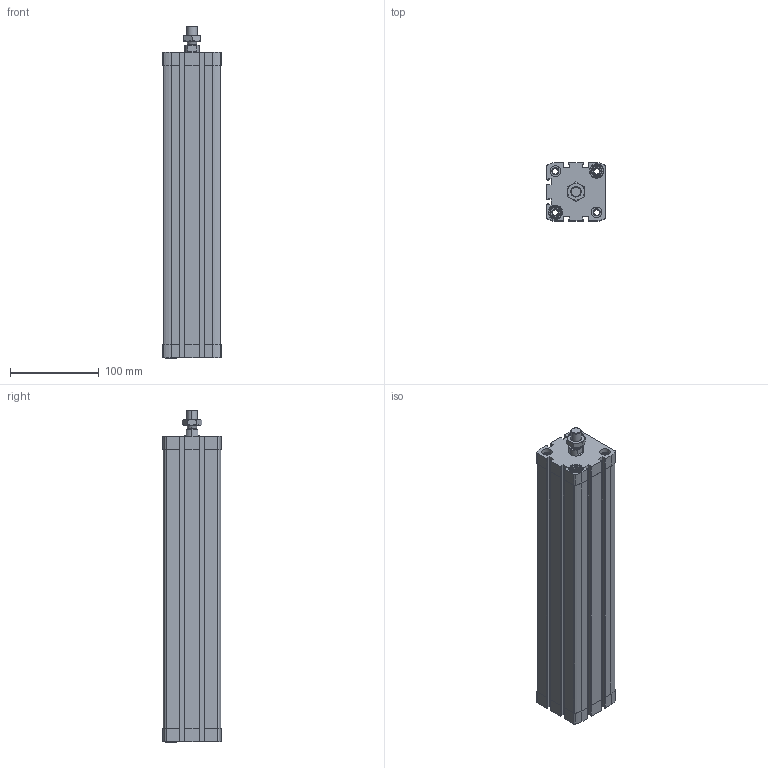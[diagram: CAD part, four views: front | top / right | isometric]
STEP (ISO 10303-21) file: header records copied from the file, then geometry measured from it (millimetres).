
FILE_DESCRIPTION (( 'STEP AP203' ), '1' );
FILE_NAME ('CCN50-300M.STEP', '2017-04-05T13:45:59', ( '' ), ( '' ), 'SwSTEP 2.0', 'SolidWorks 2016', '' );
FILE_SCHEMA (( 'CONFIG_CONTROL_DESIGN' ));
Length unit declared in the file: millimetre
Products named in the file (4): CCN-300----(Z); CCN-300_(KS); _DIN-439-B - M12x1.25(F); CCN50-300M
Assembly tree (3 placements, depth 2):
  CCN50-300M
    CCN-300----(Z)
    CCN-300_(KS)
    _DIN-439-B - M12x1.25(F)
Bounding box: 65.5 x 65.5 x 374.7 mm (x, y, z)
Volume: 804219.8 mm3; surface area: 230105.6 mm2
Topology: 3 solids, 3 shells, 491 faces, 1316 edges, 862 vertices
Faces by surface type: plane 227, cylinder 212, cone 48, bspline 4
Entity records: 16072 total; most frequent: CARTESIAN_POINT 3135, DIRECTION 2672, ORIENTED_EDGE 2632, EDGE_CURVE 1316, AXIS2_PLACEMENT_3D 977, VERTEX_POINT 862, VECTOR 718, LINE 718
